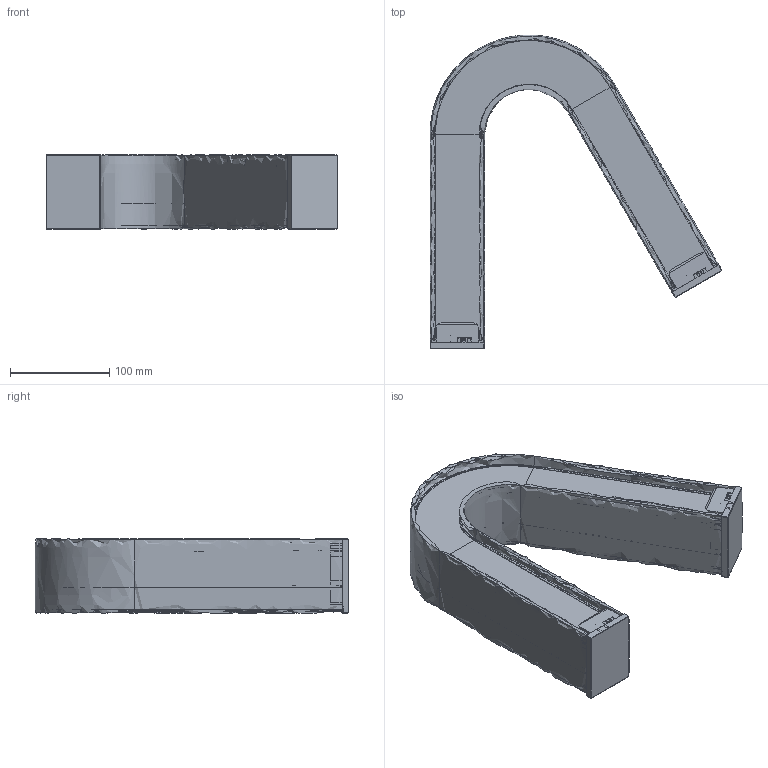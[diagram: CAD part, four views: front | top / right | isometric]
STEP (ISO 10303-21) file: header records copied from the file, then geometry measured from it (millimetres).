
FILE_DESCRIPTION(/* description */ (''),/* implementation_level */ '2;1');
FILE_NAME(/* name */ 'KISSA3~1',/* time_stamp */ '2026-04-27T15:54:35+02:00',/* author */ (''),/* organization */ (''),/* preprocessor_version */ 'ST-DEVELOPER v16.5',/* originating_system */ '',/* authorisation */ '');
FILE_SCHEMA (('AUTOMOTIVE_DESIGN'));
Products named in the file (1): Document
Bounding box: 294.65 x 316.73 x 75 mm (x, y, z)
Volume: 276990.2 mm3; surface area: 485003.9 mm2
Topology: 9 solids, 9 shells, 1922 faces, 5268 edges, 3366 vertices
Faces by surface type: bspline 1922
Entity records: 171050 total; most frequent: CARTESIAN_POINT 103892, B_SPLINE_CURVE_WITH_KNOTS 14532, ORIENTED_EDGE 10512, PCURVE 10512, DEFINITIONAL_REPRESENTATION 10512, SURFACE_CURVE 5256, EDGE_CURVE 5256, VERTEX_POINT 3366
